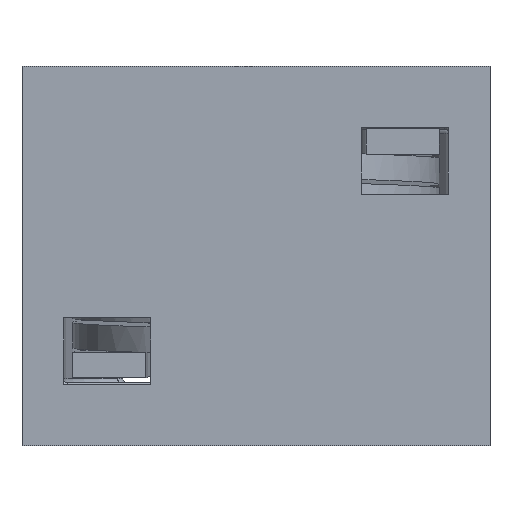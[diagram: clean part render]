
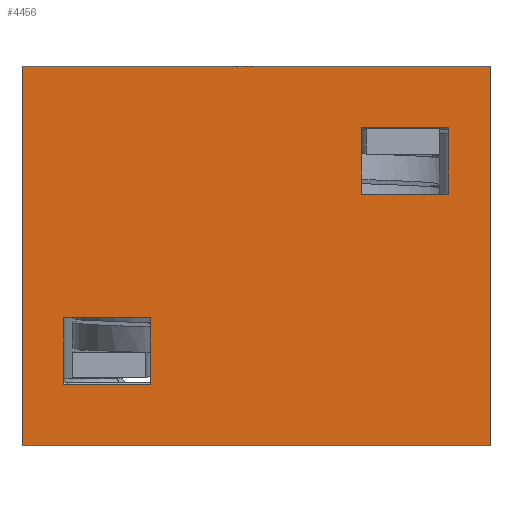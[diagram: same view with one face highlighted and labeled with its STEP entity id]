
A CAD part, front view. The second image highlights one B-rep face of the part: STEP entity #4456.
In plain terms, the highlighted planar face has unit normal (0, -1, 0).
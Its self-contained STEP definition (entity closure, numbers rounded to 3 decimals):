
#50 = DIRECTION ( 'NONE',  ( 0., 0., 1. ) ) ;
#143 = VERTEX_POINT ( 'NONE', #4884 ) ;
#145 = CARTESIAN_POINT ( 'NONE',  ( 2.265, 0., -17.362 ) ) ;
#238 = CARTESIAN_POINT ( 'NONE',  ( 18.512, 0., -6.99 ) ) ;
#239 = CARTESIAN_POINT ( 'NONE',  ( 0., 0., -20.727 ) ) ;
#368 = VERTEX_POINT ( 'NONE', #449 ) ;
#449 = CARTESIAN_POINT ( 'NONE',  ( 18.512, 0., -6.99 ) ) ;
#470 = ORIENTED_EDGE ( 'NONE', *, *, #1194, .T. ) ;
#495 = EDGE_CURVE ( 'NONE', #1480, #1591, #917, .T. ) ;
#499 = ORIENTED_EDGE ( 'NONE', *, *, #2312, .F. ) ;
#507 = VERTEX_POINT ( 'NONE', #3644 ) ;
#520 = CARTESIAN_POINT ( 'NONE',  ( 23.262, 0., -6.99 ) ) ;
#571 = FACE_BOUND ( 'NONE', #4862, .T. ) ;
#627 = CARTESIAN_POINT ( 'NONE',  ( 2.265, 0., -13.737 ) ) ;
#661 = ORIENTED_EDGE ( 'NONE', *, *, #495, .T. ) ;
#662 = LINE ( 'NONE', #238, #1572 ) ;
#665 = LINE ( 'NONE', #4409, #2598 ) ;
#723 = VECTOR ( 'NONE', #2183, 1000. ) ;
#777 = VECTOR ( 'NONE', #4861, 1000. ) ;
#790 = VECTOR ( 'NONE', #4818, 1000. ) ;
#804 = VERTEX_POINT ( 'NONE', #4133 ) ;
#875 = LINE ( 'NONE', #520, #4899 ) ;
#917 = LINE ( 'NONE', #2468, #790 ) ;
#918 = DIRECTION ( 'NONE',  ( -1., 0., 0. ) ) ;
#921 = EDGE_CURVE ( 'NONE', #507, #804, #2047, .T. ) ;
#940 = VECTOR ( 'NONE', #2949, 1000. ) ;
#1125 = LINE ( 'NONE', #1635, #4078 ) ;
#1194 = EDGE_CURVE ( 'NONE', #2196, #4165, #2901, .T. ) ;
#1225 = DIRECTION ( 'NONE',  ( 0., -1., 0. ) ) ;
#1324 = VERTEX_POINT ( 'NONE', #2530 ) ;
#1371 = EDGE_CURVE ( 'NONE', #368, #2593, #662, .T. ) ;
#1474 = CARTESIAN_POINT ( 'NONE',  ( 25.527, 0., 0. ) ) ;
#1480 = VERTEX_POINT ( 'NONE', #2631 ) ;
#1551 = CARTESIAN_POINT ( 'NONE',  ( 18.512, 0., -3.365 ) ) ;
#1572 = VECTOR ( 'NONE', #2241, 1000. ) ;
#1591 = VERTEX_POINT ( 'NONE', #2126 ) ;
#1595 = PLANE ( 'NONE',  #5032 ) ;
#1607 = FACE_BOUND ( 'NONE', #1921, .T. ) ;
#1630 = ORIENTED_EDGE ( 'NONE', *, *, #3004, .T. ) ;
#1635 = CARTESIAN_POINT ( 'NONE',  ( 0., 0., 0. ) ) ;
#1693 = VECTOR ( 'NONE', #3626, 1000. ) ;
#1787 = VERTEX_POINT ( 'NONE', #2420 ) ;
#1916 = EDGE_CURVE ( 'NONE', #5020, #368, #875, .T. ) ;
#1921 = EDGE_LOOP ( 'NONE', ( #4576, #470, #1630, #661 ) ) ;
#2047 = LINE ( 'NONE', #1474, #5060 ) ;
#2126 = CARTESIAN_POINT ( 'NONE',  ( 7.015, 0., -17.362 ) ) ;
#2183 = DIRECTION ( 'NONE',  ( 0., 0., 1. ) ) ;
#2196 = VERTEX_POINT ( 'NONE', #4084 ) ;
#2223 = CARTESIAN_POINT ( 'NONE',  ( 23.262, 0., -6.99 ) ) ;
#2241 = DIRECTION ( 'NONE',  ( 0., 0., 1. ) ) ;
#2312 = EDGE_CURVE ( 'NONE', #804, #1787, #2987, .T. ) ;
#2394 = EDGE_CURVE ( 'NONE', #1324, #5020, #4326, .T. ) ;
#2420 = CARTESIAN_POINT ( 'NONE',  ( 0., 0., -20.727 ) ) ;
#2466 = DIRECTION ( 'NONE',  ( 1., 0., 0. ) ) ;
#2468 = CARTESIAN_POINT ( 'NONE',  ( 7.015, 0., -13.737 ) ) ;
#2530 = CARTESIAN_POINT ( 'NONE',  ( 23.262, 0., -3.365 ) ) ;
#2593 = VERTEX_POINT ( 'NONE', #1551 ) ;
#2598 = VECTOR ( 'NONE', #2466, 1000. ) ;
#2631 = CARTESIAN_POINT ( 'NONE',  ( 7.015, 0., -13.737 ) ) ;
#2806 = ORIENTED_EDGE ( 'NONE', *, *, #1916, .T. ) ;
#2901 = LINE ( 'NONE', #627, #723 ) ;
#2932 = VECTOR ( 'NONE', #4363, 1000. ) ;
#2949 = DIRECTION ( 'NONE',  ( -1., 0., 0. ) ) ;
#2984 = EDGE_CURVE ( 'NONE', #143, #507, #3759, .T. ) ;
#2987 = LINE ( 'NONE', #239, #940 ) ;
#3004 = EDGE_CURVE ( 'NONE', #4165, #1480, #665, .T. ) ;
#3055 = LINE ( 'NONE', #3967, #2932 ) ;
#3297 = VECTOR ( 'NONE', #4975, 1000. ) ;
#3369 = EDGE_CURVE ( 'NONE', #1591, #2196, #4926, .T. ) ;
#3419 = DIRECTION ( 'NONE',  ( 0., 0., -1. ) ) ;
#3544 = ORIENTED_EDGE ( 'NONE', *, *, #2984, .F. ) ;
#3554 = CARTESIAN_POINT ( 'NONE',  ( 0., 0., 0. ) ) ;
#3600 = ORIENTED_EDGE ( 'NONE', *, *, #921, .F. ) ;
#3626 = DIRECTION ( 'NONE',  ( 1., 0., 0. ) ) ;
#3644 = CARTESIAN_POINT ( 'NONE',  ( 25.527, 0., 0. ) ) ;
#3753 = ORIENTED_EDGE ( 'NONE', *, *, #4583, .T. ) ;
#3759 = LINE ( 'NONE', #4656, #1693 ) ;
#3793 = FACE_OUTER_BOUND ( 'NONE', #4524, .T. ) ;
#3870 = ORIENTED_EDGE ( 'NONE', *, *, #2394, .T. ) ;
#3929 = DIRECTION ( 'NONE',  ( 0., 0., -1. ) ) ;
#3967 = CARTESIAN_POINT ( 'NONE',  ( 23.262, 0., -3.365 ) ) ;
#4078 = VECTOR ( 'NONE', #50, 1000. ) ;
#4084 = CARTESIAN_POINT ( 'NONE',  ( 2.265, 0., -17.362 ) ) ;
#4119 = ORIENTED_EDGE ( 'NONE', *, *, #1371, .T. ) ;
#4133 = CARTESIAN_POINT ( 'NONE',  ( 25.527, 0., -20.727 ) ) ;
#4160 = CARTESIAN_POINT ( 'NONE',  ( 23.262, 0., -6.99 ) ) ;
#4165 = VERTEX_POINT ( 'NONE', #4596 ) ;
#4326 = LINE ( 'NONE', #2223, #3297 ) ;
#4363 = DIRECTION ( 'NONE',  ( 1., 0., 0. ) ) ;
#4409 = CARTESIAN_POINT ( 'NONE',  ( 2.265, 0., -13.737 ) ) ;
#4456 = ADVANCED_FACE ( 'NONE', ( #3793, #1607, #571 ), #1595, .T. ) ;
#4486 = EDGE_CURVE ( 'NONE', #1787, #143, #1125, .T. ) ;
#4504 = ORIENTED_EDGE ( 'NONE', *, *, #4486, .F. ) ;
#4524 = EDGE_LOOP ( 'NONE', ( #4504, #499, #3600, #3544 ) ) ;
#4576 = ORIENTED_EDGE ( 'NONE', *, *, #3369, .T. ) ;
#4583 = EDGE_CURVE ( 'NONE', #2593, #1324, #3055, .T. ) ;
#4596 = CARTESIAN_POINT ( 'NONE',  ( 2.265, 0., -13.737 ) ) ;
#4656 = CARTESIAN_POINT ( 'NONE',  ( 0., 0., 0. ) ) ;
#4818 = DIRECTION ( 'NONE',  ( 0., 0., -1. ) ) ;
#4861 = DIRECTION ( 'NONE',  ( -1., 0., 0. ) ) ;
#4862 = EDGE_LOOP ( 'NONE', ( #3753, #3870, #2806, #4119 ) ) ;
#4884 = CARTESIAN_POINT ( 'NONE',  ( 0., 0., 0. ) ) ;
#4899 = VECTOR ( 'NONE', #918, 1000. ) ;
#4926 = LINE ( 'NONE', #145, #777 ) ;
#4975 = DIRECTION ( 'NONE',  ( 0., 0., -1. ) ) ;
#5020 = VERTEX_POINT ( 'NONE', #4160 ) ;
#5032 = AXIS2_PLACEMENT_3D ( 'NONE', #3554, #1225, #3929 ) ;
#5060 = VECTOR ( 'NONE', #3419, 1000. ) ;
